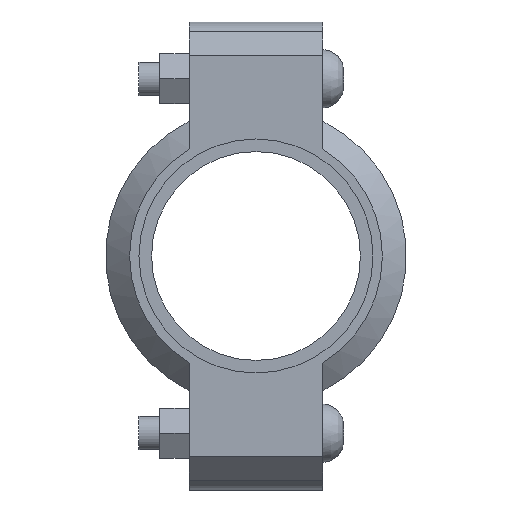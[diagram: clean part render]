
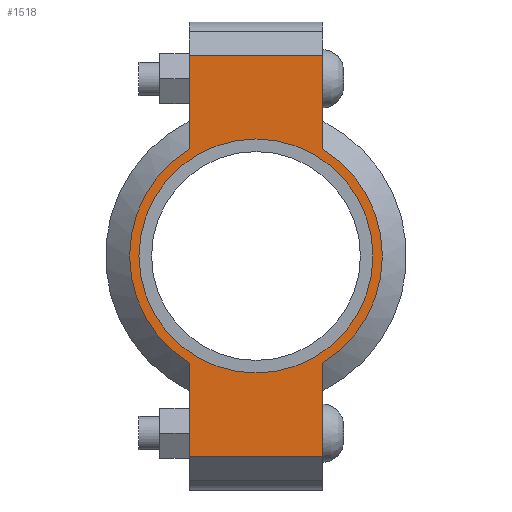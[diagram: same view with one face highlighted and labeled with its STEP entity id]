
A CAD part, left-side view. The second image highlights one B-rep face of the part: STEP entity #1518.
In plain terms, the highlighted planar face has unit normal (-1, 0, 0) as drawn and (0, 0, 1) by its records, which use the part's own axes.
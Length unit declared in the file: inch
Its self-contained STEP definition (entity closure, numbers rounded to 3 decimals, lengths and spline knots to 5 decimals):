
#142=LINE('',#2640,#235);
#150=LINE('',#2676,#243);
#157=LINE('',#2697,#250);
#166=LINE('',#2729,#259);
#167=LINE('',#2733,#260);
#168=LINE('',#2735,#261);
#235=VECTOR('',#2156,0.3937);
#243=VECTOR('',#2172,0.3937);
#250=VECTOR('',#2191,0.3937);
#259=VECTOR('',#2216,0.3937);
#260=VECTOR('',#2221,0.3937);
#261=VECTOR('',#2222,0.3937);
#317=FACE_BOUND('',#495,.T.);
#389=FACE_OUTER_BOUND('',#494,.T.);
#494=EDGE_LOOP('',(#1259,#1260,#1261,#1262,#1263,#1264,#1265,#1266));
#495=EDGE_LOOP('',(#1267));
#567=CIRCLE('',#1728,1.75);
#593=CIRCLE('',#1787,1.89);
#594=CIRCLE('',#1788,1.89);
#659=VERTEX_POINT('',#2456);
#702=VERTEX_POINT('',#2637);
#703=VERTEX_POINT('',#2639);
#714=VERTEX_POINT('',#2671);
#715=VERTEX_POINT('',#2675);
#722=VERTEX_POINT('',#2694);
#723=VERTEX_POINT('',#2696);
#733=VERTEX_POINT('',#2732);
#734=VERTEX_POINT('',#2734);
#815=EDGE_CURVE('',#659,#659,#567,.T.);
#876=EDGE_CURVE('',#703,#702,#142,.T.);
#890=EDGE_CURVE('',#715,#714,#150,.T.);
#900=EDGE_CURVE('',#723,#722,#157,.T.);
#915=EDGE_CURVE('',#715,#702,#166,.T.);
#916=EDGE_CURVE('',#714,#723,#593,.T.);
#917=EDGE_CURVE('',#733,#722,#167,.T.);
#918=EDGE_CURVE('',#733,#734,#168,.T.);
#919=EDGE_CURVE('',#734,#703,#594,.T.);
#1259=ORIENTED_EDGE('',*,*,#915,.F.);
#1260=ORIENTED_EDGE('',*,*,#890,.T.);
#1261=ORIENTED_EDGE('',*,*,#916,.T.);
#1262=ORIENTED_EDGE('',*,*,#900,.T.);
#1263=ORIENTED_EDGE('',*,*,#917,.F.);
#1264=ORIENTED_EDGE('',*,*,#918,.T.);
#1265=ORIENTED_EDGE('',*,*,#919,.T.);
#1266=ORIENTED_EDGE('',*,*,#876,.T.);
#1267=ORIENTED_EDGE('',*,*,#815,.T.);
#1360=PLANE('',#1786);
#1518=ADVANCED_FACE('',(#389,#317),#1360,.T.);
#1728=AXIS2_PLACEMENT_3D('',#2458,#2032,#2033);
#1786=AXIS2_PLACEMENT_3D('',#2730,#2217,#2218);
#1787=AXIS2_PLACEMENT_3D('',#2731,#2219,#2220);
#1788=AXIS2_PLACEMENT_3D('',#2736,#2223,#2224);
#2032=DIRECTION('center_axis',(0.,0.,-1.));
#2033=DIRECTION('ref_axis',(-1.,0.,0.));
#2156=DIRECTION('',(-1.,0.,0.));
#2172=DIRECTION('',(1.,0.,0.));
#2191=DIRECTION('',(1.,0.,0.));
#2216=DIRECTION('',(0.,1.,0.));
#2217=DIRECTION('center_axis',(0.,0.,1.));
#2218=DIRECTION('ref_axis',(1.,0.,0.));
#2219=DIRECTION('center_axis',(0.,0.,1.));
#2220=DIRECTION('ref_axis',(-1.,0.,0.));
#2221=DIRECTION('',(0.,-1.,0.));
#2222=DIRECTION('',(-1.,0.,0.));
#2223=DIRECTION('center_axis',(0.,0.,1.));
#2224=DIRECTION('ref_axis',(-1.,0.,0.));
#2456=CARTESIAN_POINT('',(1.75,0.,0.94));
#2458=CARTESIAN_POINT('Origin',(0.,0.,0.94));
#2637=CARTESIAN_POINT('',(-3.,1.,0.94));
#2639=CARTESIAN_POINT('',(-1.60378,1.,0.94));
#2640=CARTESIAN_POINT('',(-3.5,1.,0.94));
#2671=CARTESIAN_POINT('',(-1.60378,-1.,0.94));
#2675=CARTESIAN_POINT('',(-3.,-1.,0.94));
#2676=CARTESIAN_POINT('',(3.5,-1.,0.94));
#2694=CARTESIAN_POINT('',(3.,-1.,0.94));
#2696=CARTESIAN_POINT('',(1.60378,-1.,0.94));
#2697=CARTESIAN_POINT('',(3.5,-1.,0.94));
#2729=CARTESIAN_POINT('',(-3.,0.5,0.94));
#2730=CARTESIAN_POINT('Origin',(0.,0.,
0.94));
#2731=CARTESIAN_POINT('Origin',(0.,0.,0.94));
#2732=CARTESIAN_POINT('',(3.,1.,0.94));
#2733=CARTESIAN_POINT('',(3.,-0.5,0.94));
#2734=CARTESIAN_POINT('',(1.60378,1.,0.94));
#2735=CARTESIAN_POINT('',(-3.5,1.,0.94));
#2736=CARTESIAN_POINT('Origin',(0.,0.,0.94));
